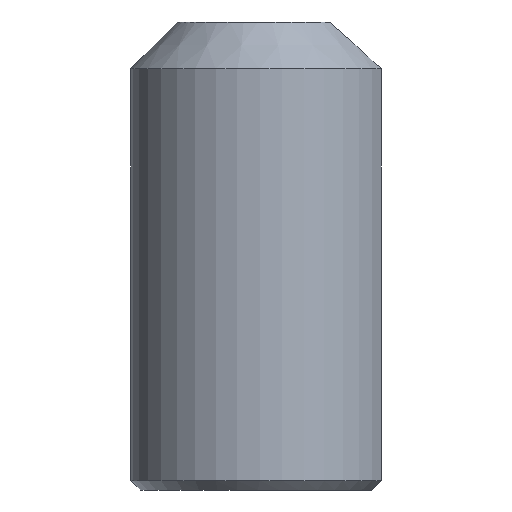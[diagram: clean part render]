
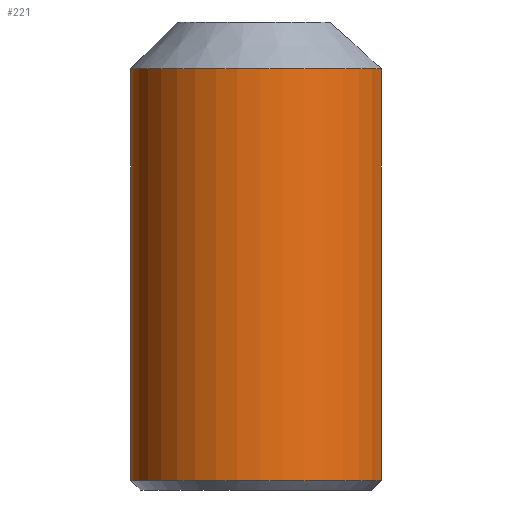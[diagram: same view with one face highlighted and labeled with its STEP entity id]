
A CAD part, left-side view. The second image highlights one B-rep face of the part: STEP entity #221.
In plain terms, the highlighted cylindrical face has radius 7.01 mm (diameter 14.021 mm), a partial arc.
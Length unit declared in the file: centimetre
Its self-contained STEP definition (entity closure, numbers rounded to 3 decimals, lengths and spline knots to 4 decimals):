
#109=VECTOR('',#294,1.);
#110=VECTOR('',#297,1.);
#119=LINE('',#254,#109);
#120=LINE('',#258,#110);
#129=CYLINDRICAL_SURFACE('',#231,0.701);
#130=CIRCLE('',#229,0.701);
#132=CIRCLE('',#232,0.701);
#135=VERTEX_POINT('',#245);
#136=VERTEX_POINT('',#247);
#138=VERTEX_POINT('',#255);
#139=VERTEX_POINT('',#257);
#151=EDGE_CURVE('',#135,#136,#130,.T.);
#154=EDGE_CURVE('',#135,#138,#119,.T.);
#155=EDGE_CURVE('',#139,#138,#132,.T.);
#156=EDGE_CURVE('',#136,#139,#120,.T.);
#172=ORIENTED_EDGE('',*,*,#151,.F.);
#173=ORIENTED_EDGE('',*,*,#154,.T.);
#174=ORIENTED_EDGE('',*,*,#155,.F.);
#175=ORIENTED_EDGE('',*,*,#156,.F.);
#205=EDGE_LOOP('',(#172,#173,#174,#175));
#213=FACE_BOUND('',#205,.T.);
#221=ADVANCED_FACE('',(#213),#129,.T.);
#229=AXIS2_PLACEMENT_3D('',#246,#288,#289);
#231=AXIS2_PLACEMENT_3D('',#253,#292,#293);
#232=AXIS2_PLACEMENT_3D('',#256,#295,#296);
#245=CARTESIAN_POINT('',(-0.2381,-0.6584,0.0508));
#246=CARTESIAN_POINT('',(0.0025,0.,0.0508));
#247=CARTESIAN_POINT('',(0.2432,-0.6584,0.0508));
#253=CARTESIAN_POINT('',(0.0025,0.,0.));
#254=CARTESIAN_POINT('',(-0.2381,-0.6584,0.));
#255=CARTESIAN_POINT('',(-0.2381,-0.6584,2.286));
#256=CARTESIAN_POINT('',(0.0025,0.,2.286));
#257=CARTESIAN_POINT('',(0.2432,-0.6584,2.286));
#258=CARTESIAN_POINT('',(0.2432,-0.6584,0.));
#288=DIRECTION('',(0.,0.,-1.));
#289=DIRECTION('',(0.,0.701,0.));
#292=DIRECTION('',(0.,0.,1.));
#293=DIRECTION('',(0.701,0.,0.));
#294=DIRECTION('',(0.,0.,1.));
#295=DIRECTION('',(0.,0.,1.));
#296=DIRECTION('',(0.,0.701,0.));
#297=DIRECTION('',(0.,0.,1.));
